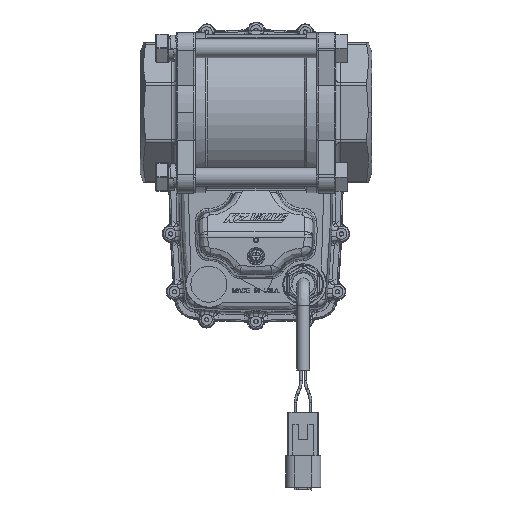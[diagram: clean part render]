
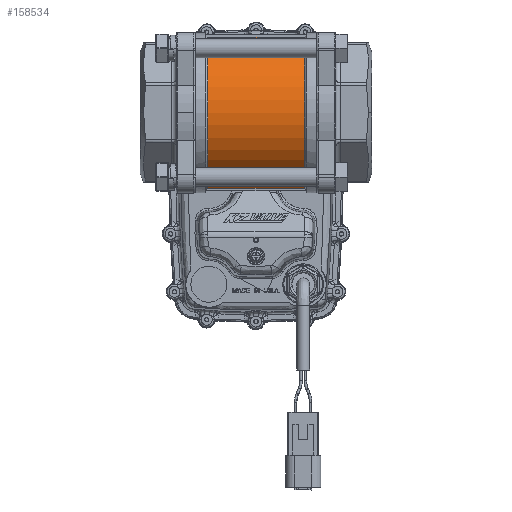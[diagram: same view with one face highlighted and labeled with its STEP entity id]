
A CAD part, front view. The second image highlights one B-rep face of the part: STEP entity #158534.
In plain terms, the highlighted cylindrical face has radius 46.076 mm (diameter 92.151 mm), a partial arc.
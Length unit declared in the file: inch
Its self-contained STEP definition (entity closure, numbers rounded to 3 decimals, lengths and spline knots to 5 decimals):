
#2030 = VECTOR ( 'NONE', #102957, 39.37008 ) ;
#10913 = CARTESIAN_POINT ( 'NONE',  ( -1.122, -3.624, 0. ) ) ;
#13672 = DIRECTION ( 'NONE',  ( 0., 1., 0. ) ) ;
#18329 = ORIENTED_EDGE ( 'NONE', *, *, #80366, .T. ) ;
#23232 = VECTOR ( 'NONE', #60959, 39.37008 ) ;
#24480 = FACE_OUTER_BOUND ( 'NONE', #59904, .T. ) ;
#42208 = DIRECTION ( 'NONE',  ( 0., 0., -1. ) ) ;
#46740 = VERTEX_POINT ( 'NONE', #91120 ) ;
#46763 = CARTESIAN_POINT ( 'NONE',  ( 1.122, -3.624, 0. ) ) ;
#53090 = AXIS2_PLACEMENT_3D ( 'NONE', #46763, #191033, #126922 ) ;
#55917 = CIRCLE ( 'NONE', #53090, 1.814 ) ;
#59338 = EDGE_CURVE ( 'NONE', #204297, #111565, #127190, .T. ) ;
#59904 = EDGE_LOOP ( 'NONE', ( #151544, #132795, #148870, #18329 ) ) ;
#60691 = CARTESIAN_POINT ( 'NONE',  ( 1.122, -4.074, -1.7573 ) ) ;
#60959 = DIRECTION ( 'NONE',  ( -1., 0., 0. ) ) ;
#61657 = CARTESIAN_POINT ( 'NONE',  ( 1.122, -4.074, -1.7573 ) ) ;
#72603 = DIRECTION ( 'NONE',  ( 1., 0., 0. ) ) ;
#80366 = EDGE_CURVE ( 'NONE', #46740, #88149, #90951, .T. ) ;
#85184 = AXIS2_PLACEMENT_3D ( 'NONE', #10913, #105515, #13672 ) ;
#88149 = VERTEX_POINT ( 'NONE', #196592 ) ;
#90951 = LINE ( 'NONE', #152068, #2030 ) ;
#91120 = CARTESIAN_POINT ( 'NONE',  ( 1.122, -4.074, 1.7573 ) ) ;
#102957 = DIRECTION ( 'NONE',  ( -1., 0., 0. ) ) ;
#105515 = DIRECTION ( 'NONE',  ( -1., 0., 0. ) ) ;
#110193 = EDGE_CURVE ( 'NONE', #111565, #88149, #155435, .T. ) ;
#111565 = VERTEX_POINT ( 'NONE', #138070 ) ;
#118224 = CARTESIAN_POINT ( 'NONE',  ( 0., -3.624, 0. ) ) ;
#126922 = DIRECTION ( 'NONE',  ( 0., 1., 0. ) ) ;
#127190 = LINE ( 'NONE', #61657, #23232 ) ;
#132795 = ORIENTED_EDGE ( 'NONE', *, *, #59338, .F. ) ;
#138070 = CARTESIAN_POINT ( 'NONE',  ( -1.122, -4.074, -1.7573 ) ) ;
#148870 = ORIENTED_EDGE ( 'NONE', *, *, #196495, .F. ) ;
#151544 = ORIENTED_EDGE ( 'NONE', *, *, #110193, .F. ) ;
#152068 = CARTESIAN_POINT ( 'NONE',  ( 0., -4.074, 1.7573 ) ) ;
#155435 = CIRCLE ( 'NONE', #85184, 1.814 ) ;
#158534 = ADVANCED_FACE ( 'NONE', ( #24480 ), #187640, .T. ) ;
#165429 = AXIS2_PLACEMENT_3D ( 'NONE', #118224, #72603, #42208 ) ;
#187640 = CYLINDRICAL_SURFACE ( 'NONE', #165429, 1.814 ) ;
#191033 = DIRECTION ( 'NONE',  ( 1., 0., 0. ) ) ;
#196495 = EDGE_CURVE ( 'NONE', #46740, #204297, #55917, .T. ) ;
#196592 = CARTESIAN_POINT ( 'NONE',  ( -1.122, -4.074, 1.7573 ) ) ;
#204297 = VERTEX_POINT ( 'NONE', #60691 ) ;
